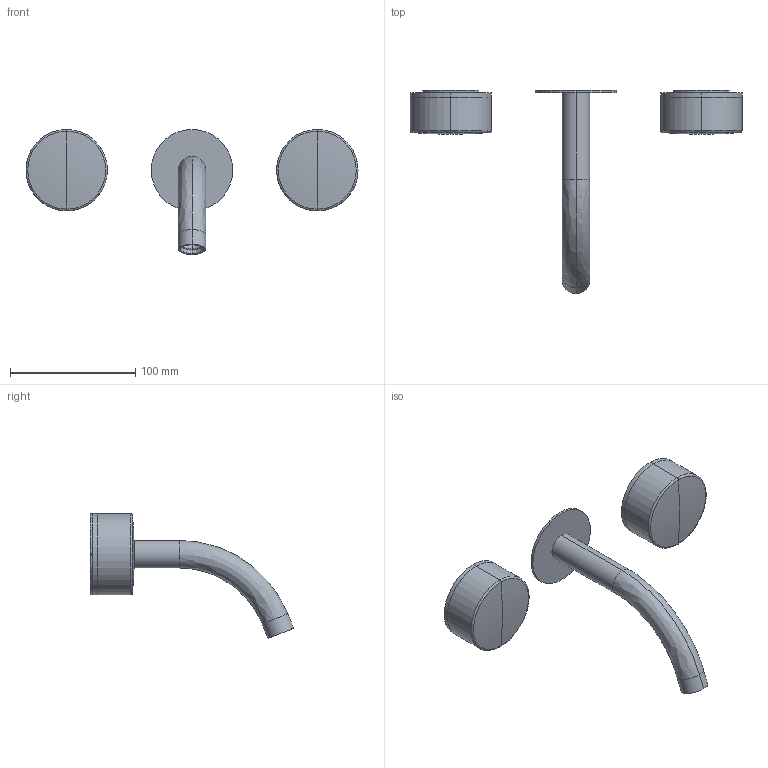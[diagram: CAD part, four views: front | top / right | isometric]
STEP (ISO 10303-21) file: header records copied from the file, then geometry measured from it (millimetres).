
FILE_DESCRIPTION(('STEP AP203'),'2;1');
FILE_NAME('DIS_3D_S210SB.stp','2022-05-17T13:10:42',(''),(''),'2015.2.119','THINKDESIGN','');
FILE_SCHEMA(('CONFIG_CONTROL_DESIGN'));
Length unit declared in the file: millimetre
Bounding box: 265 x 162.2 x 99.82 mm (x, y, z)
Volume: 255765 mm3; surface area: 76312.1 mm2
Topology: 8 solids, 8 shells, 107 faces, 228 edges, 138 vertices
Faces by surface type: cylinder 48, bspline 30, plane 29
Entity records: 3911 total; most frequent: CARTESIAN_POINT 1585, DIRECTION 480, ORIENTED_EDGE 448, EDGE_CURVE 224, AXIS2_PLACEMENT_3D 199, VERTEX_POINT 138, CIRCLE 122, EDGE_LOOP 116
